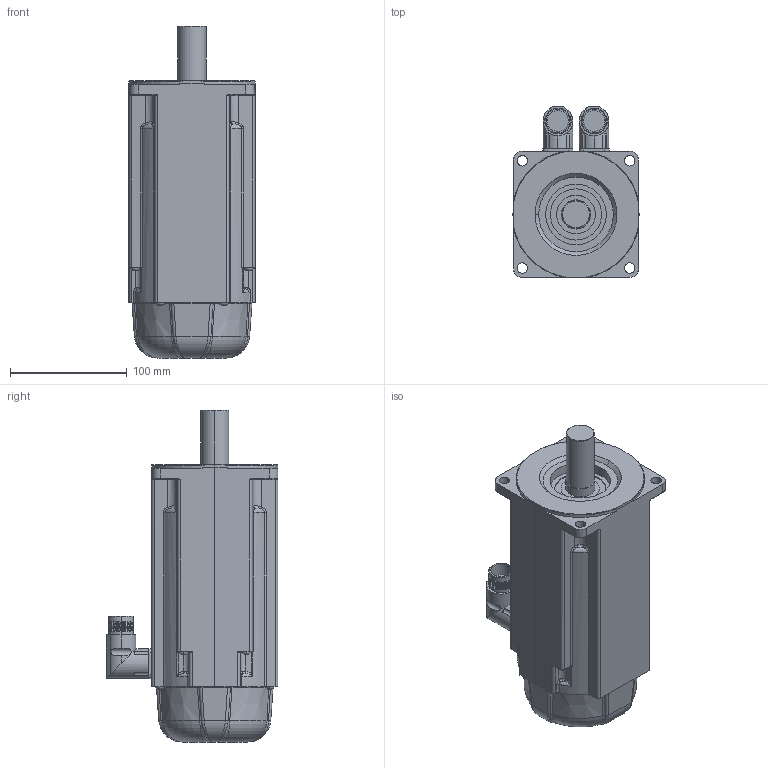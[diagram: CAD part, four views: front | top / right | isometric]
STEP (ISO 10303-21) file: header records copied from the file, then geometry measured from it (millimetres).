
FILE_DESCRIPTION (( 'STEP AP214' ), '1' );
FILE_NAME ('MR7753-Ux-Nxx-G01-A0D-MS-P0.stp', '2009-04-08T13:46:00', ( 'sysAdmin' ), ( 'SolidWorks' ), 'SwSTEP 2.0', 'SolidWorks 2009', '' );
FILE_SCHEMA (( 'AUTOMOTIVE_DESIGN' ));
Length unit declared in the file: millimetre
Products named in the file (1): MR7753-Ux-Nxx-G01-A0D-MS-P0
Bounding box: 108 x 147 x 284.5 mm (x, y, z)
Volume: 2286370.1 mm3; surface area: 128818.9 mm2
Topology: 1 solids, 1 shells, 601 faces, 1466 edges, 864 vertices
Faces by surface type: cylinder 176, bspline 136, plane 129, cone 108, torus 52
Entity records: 28863 total; most frequent: CARTESIAN_POINT 9792, ORIENTED_EDGE 2876, DIRECTION 2502, EDGE_CURVE 1438, AXIS2_PLACEMENT_3D 1062, VERTEX_POINT 864, EDGE_LOOP 634, FACE_OUTER_BOUND 601
